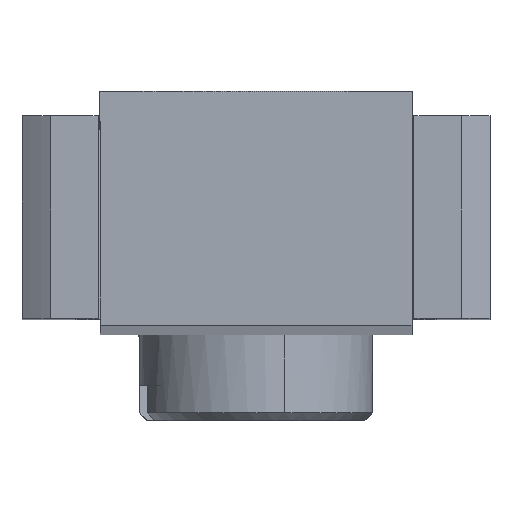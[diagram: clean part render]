
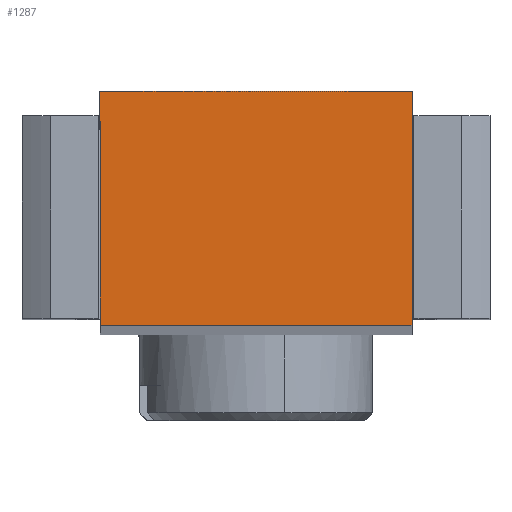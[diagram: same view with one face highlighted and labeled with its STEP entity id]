
A CAD part, top view. The second image highlights one B-rep face of the part: STEP entity #1287.
In plain terms, the highlighted planar face has unit normal (0, 0, 1).
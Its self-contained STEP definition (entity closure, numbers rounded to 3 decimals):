
#9 = VECTOR ( 'NONE', #1365, 1000. ) ;
#20 = DIRECTION ( 'NONE',  ( 1., 0., 0. ) ) ;
#37 = CARTESIAN_POINT ( 'NONE',  ( -2., -1.53, 22.163 ) ) ;
#67 = CARTESIAN_POINT ( 'NONE',  ( 2., -1.53, 22.163 ) ) ;
#85 = EDGE_CURVE ( 'NONE', #684, #832, #411, .T. ) ;
#119 = DIRECTION ( 'NONE',  ( 0., 0., 1. ) ) ;
#170 = CARTESIAN_POINT ( 'NONE',  ( -2., 1.47, 22.163 ) ) ;
#232 = DIRECTION ( 'NONE',  ( 1., 0., 0. ) ) ;
#256 = CARTESIAN_POINT ( 'NONE',  ( 2., -1.53, 22.163 ) ) ;
#347 = CARTESIAN_POINT ( 'NONE',  ( 2., 1.47, 22.163 ) ) ;
#359 = DIRECTION ( 'NONE',  ( -1., 0., 0. ) ) ;
#411 = LINE ( 'NONE', #1093, #437 ) ;
#437 = VECTOR ( 'NONE', #1157, 1000. ) ;
#461 = AXIS2_PLACEMENT_3D ( 'NONE', #256, #119, #20 ) ;
#549 = PLANE ( 'NONE',  #461 ) ;
#550 = VECTOR ( 'NONE', #232, 1000. ) ;
#684 = VERTEX_POINT ( 'NONE', #170 ) ;
#696 = VERTEX_POINT ( 'NONE', #1412 ) ;
#744 = ORIENTED_EDGE ( 'NONE', *, *, #85, .T. ) ;
#762 = ORIENTED_EDGE ( 'NONE', *, *, #791, .T. ) ;
#791 = EDGE_CURVE ( 'NONE', #832, #1419, #1277, .T. ) ;
#832 = VERTEX_POINT ( 'NONE', #1208 ) ;
#1035 = ORIENTED_EDGE ( 'NONE', *, *, #1521, .T. ) ;
#1075 = LINE ( 'NONE', #1689, #9 ) ;
#1093 = CARTESIAN_POINT ( 'NONE',  ( -2., 1.47, 22.163 ) ) ;
#1157 = DIRECTION ( 'NONE',  ( 0., -1., 0. ) ) ;
#1208 = CARTESIAN_POINT ( 'NONE',  ( -2., -1.53, 22.163 ) ) ;
#1228 = ORIENTED_EDGE ( 'NONE', *, *, #1424, .T. ) ;
#1271 = VECTOR ( 'NONE', #359, 1000. ) ;
#1277 = LINE ( 'NONE', #37, #550 ) ;
#1287 = ADVANCED_FACE ( 'NONE', ( #1485 ), #549, .T. ) ;
#1345 = LINE ( 'NONE', #347, #1271 ) ;
#1365 = DIRECTION ( 'NONE',  ( 0., 1., 0. ) ) ;
#1387 = EDGE_LOOP ( 'NONE', ( #1035, #1228, #744, #762 ) ) ;
#1412 = CARTESIAN_POINT ( 'NONE',  ( 2., 1.47, 22.163 ) ) ;
#1419 = VERTEX_POINT ( 'NONE', #67 ) ;
#1424 = EDGE_CURVE ( 'NONE', #696, #684, #1345, .T. ) ;
#1485 = FACE_OUTER_BOUND ( 'NONE', #1387, .T. ) ;
#1521 = EDGE_CURVE ( 'NONE', #1419, #696, #1075, .T. ) ;
#1689 = CARTESIAN_POINT ( 'NONE',  ( 2., 1.47, 22.163 ) ) ;
